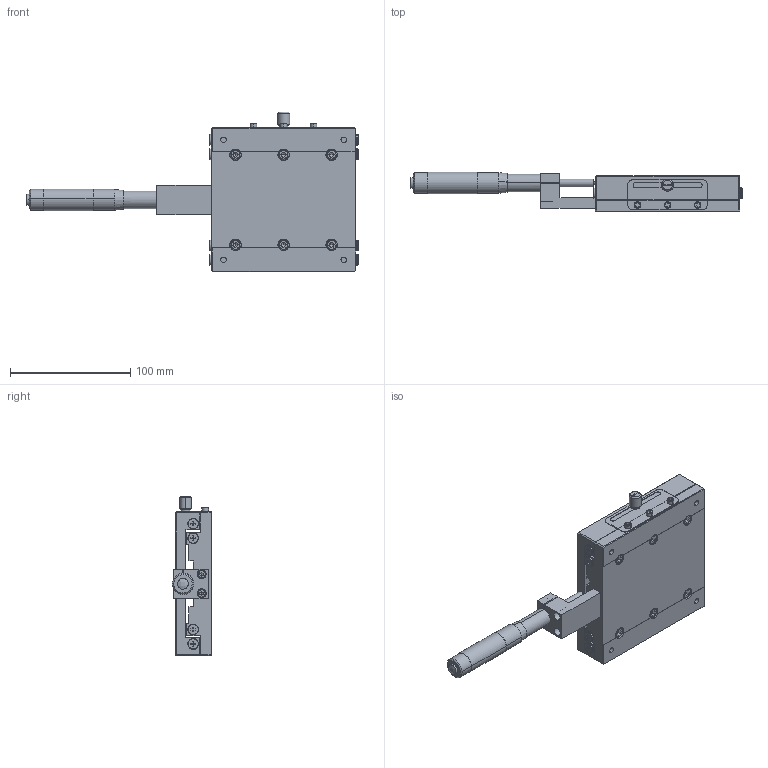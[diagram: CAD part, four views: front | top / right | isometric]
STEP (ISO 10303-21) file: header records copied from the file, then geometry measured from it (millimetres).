
FILE_DESCRIPTION (( 'STEP AP203' ), '1' );
FILE_NAME ('LX120-C.STEP', '2013-12-28T03:22:24', ( 'pengyu' ), ( '' ), 'SwSTEP 2.0', 'SolidWorks 2011', '' );
FILE_SCHEMA (( 'CONFIG_CONTROL_DESIGN' ));
Length unit declared in the file: millimetre
Products named in the file (4): LX120-C; MT50-1-1; L120C-2; L120C-1
Assembly tree (3 placements, depth 2):
  LX120-C
    MT50-1-1
    L120C-1
    L120C-2
Bounding box: 276.17 x 32.99 x 133 mm (x, y, z)
Volume: 428145.6 mm3; surface area: 109066 mm2
Topology: 3 solids, 10 shells, 778 faces, 1979 edges, 1259 vertices
Faces by surface type: plane 468, cylinder 185, bspline 71, cone 54
Entity records: 24960 total; most frequent: CARTESIAN_POINT 5729, DIRECTION 3967, ORIENTED_EDGE 3882, EDGE_CURVE 1941, AXIS2_PLACEMENT_3D 1387, VERTEX_POINT 1259, LINE 1193, VECTOR 1193
